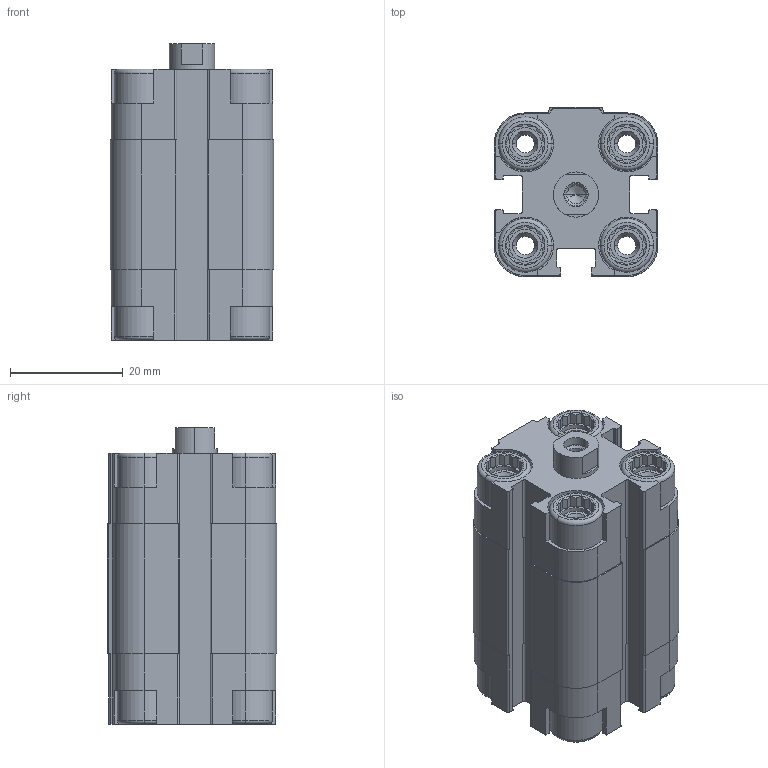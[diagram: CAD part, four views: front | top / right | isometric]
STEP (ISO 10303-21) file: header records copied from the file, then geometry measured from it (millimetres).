
FILE_DESCRIPTION (( 'STEP AP203' ), '1' );
FILE_NAME ('CDVU16-10F.STEP', '2020-03-30T14:53:11', ( '' ), ( '' ), 'SwSTEP 2.0', 'SolidWorks 2019', '' );
FILE_SCHEMA (( 'CONFIG_CONTROL_DESIGN' ));
Length unit declared in the file: millimetre
Products named in the file (1): CDVU16-10F
Bounding box: 29 x 30 x 52.5 mm (x, y, z)
Volume: 29086.4 mm3; surface area: 15951.6 mm2
Topology: 2 solids, 2 shells, 553 faces, 1474 edges, 959 vertices
Faces by surface type: plane 333, cylinder 158, cone 46, torus 16
Entity records: 17385 total; most frequent: CARTESIAN_POINT 3557, ORIENTED_EDGE 2936, DIRECTION 2776, EDGE_CURVE 1468, VERTEX_POINT 959, AXIS2_PLACEMENT_3D 946, VECTOR 884, LINE 884
